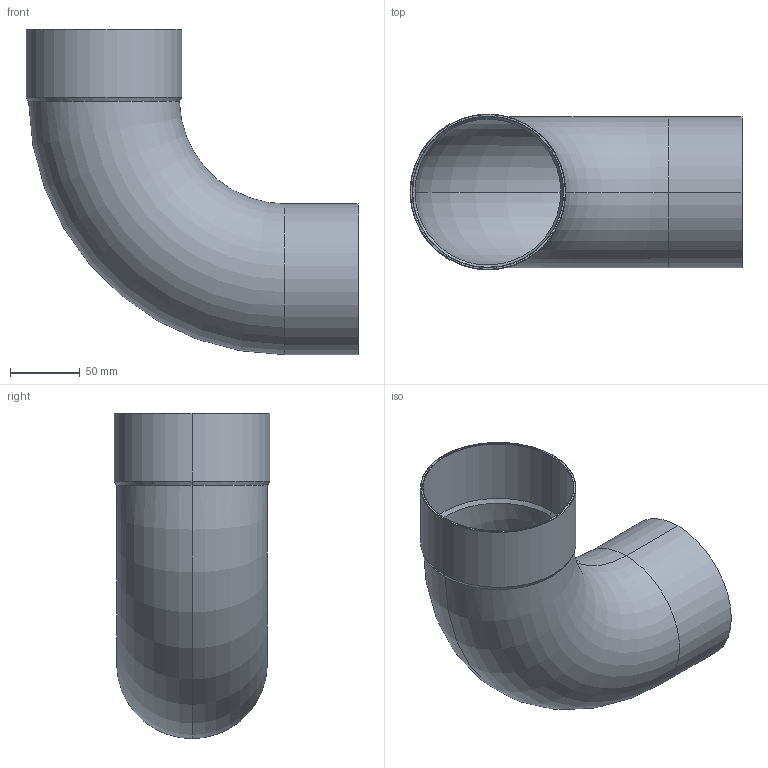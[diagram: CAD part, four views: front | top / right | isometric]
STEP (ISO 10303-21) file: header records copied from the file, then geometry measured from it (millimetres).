
FILE_DESCRIPTION((''),'2;1');
FILE_NAME('P:\Bouwmaten\z-maattekeningen 3D\5000\5001a\15001a108.stp','2005-10-04T15:08:48',('Kris'),(''),'Autodesk Inventor 8','Autodesk Inventor 8','');
FILE_SCHEMA(('AUTOMOTIVE_DESIGN { 1 0 10303 214 1 1 1 1 }'));
Length unit declared in the file: millimetre
Products named in the file (1): 15001a108
Bounding box: 237.8 x 111.6 x 233 mm (x, y, z)
Volume: 184668.9 mm3; surface area: 206322.3 mm2
Topology: 1 solids, 1 shells, 22 faces, 46 edges, 26 vertices
Faces by surface type: cone 8, cylinder 8, torus 4, plane 2
Entity records: 679 total; most frequent: CARTESIAN_POINT 171, DIRECTION 114, ORIENTED_EDGE 92, AXIS2_PLACEMENT_3D 49, EDGE_CURVE 46, VERTEX_POINT 26, CIRCLE 26, EDGE_LOOP 24
